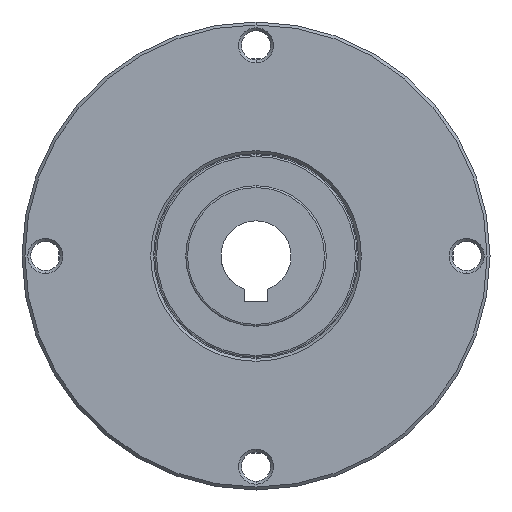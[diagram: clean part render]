
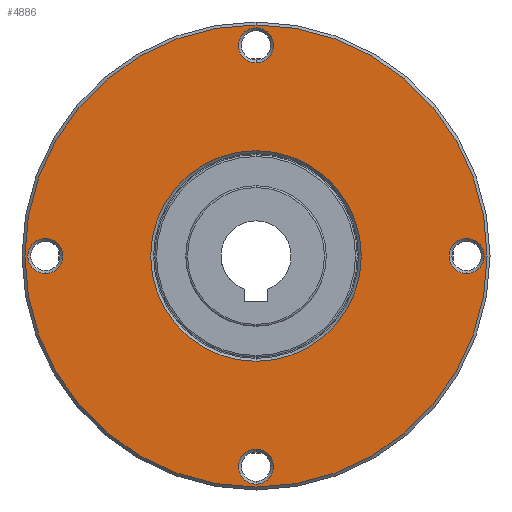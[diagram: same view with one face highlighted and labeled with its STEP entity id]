
A CAD part, front view. The second image highlights one B-rep face of the part: STEP entity #4886.
In plain terms, the highlighted planar face has unit normal (0, -1, 0).
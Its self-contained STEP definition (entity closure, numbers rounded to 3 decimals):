
#45 = EDGE_CURVE ( 'NONE', #6743, #6055, #467, .T. ) ;
#61 = ORIENTED_EDGE ( 'NONE', *, *, #7076, .T. ) ;
#65 = ORIENTED_EDGE ( 'NONE', *, *, #6584, .T. ) ;
#88 = DIRECTION ( 'NONE',  ( 0., 0., -1. ) ) ;
#127 = CIRCLE ( 'NONE', #7108, 39.5 ) ;
#183 = CARTESIAN_POINT ( 'NONE',  ( 36., -29.133, 3. ) ) ;
#240 = DIRECTION ( 'NONE',  ( 0., 0., -1. ) ) ;
#252 = EDGE_LOOP ( 'NONE', ( #5687, #6183 ) ) ;
#422 = CARTESIAN_POINT ( 'NONE',  ( 0., -29.133, 39.5 ) ) ;
#467 = CIRCLE ( 'NONE', #6837, 3. ) ;
#716 = EDGE_CURVE ( 'NONE', #6162, #2233, #7399, .T. ) ;
#736 = FACE_BOUND ( 'NONE', #969, .T. ) ;
#809 = CIRCLE ( 'NONE', #5395, 3. ) ;
#872 = DIRECTION ( 'NONE',  ( 0., 1., 0. ) ) ;
#905 = EDGE_CURVE ( 'NONE', #3075, #4284, #809, .T. ) ;
#969 = EDGE_LOOP ( 'NONE', ( #2950, #1299 ) ) ;
#994 = CARTESIAN_POINT ( 'NONE',  ( 36., -29.133, -3. ) ) ;
#1190 = EDGE_LOOP ( 'NONE', ( #65, #5935 ) ) ;
#1223 = VERTEX_POINT ( 'NONE', #6245 ) ;
#1227 = AXIS2_PLACEMENT_3D ( 'NONE', #7212, #3736, #240 ) ;
#1299 = ORIENTED_EDGE ( 'NONE', *, *, #4125, .T. ) ;
#1403 = CARTESIAN_POINT ( 'NONE',  ( -36., -29.133, 0. ) ) ;
#1701 = CIRCLE ( 'NONE', #2574, 18. ) ;
#1723 = CIRCLE ( 'NONE', #5739, 3. ) ;
#1955 = DIRECTION ( 'NONE',  ( 0., -1., 0. ) ) ;
#1997 = DIRECTION ( 'NONE',  ( 0., 0., -1. ) ) ;
#2054 = CARTESIAN_POINT ( 'NONE',  ( 0., -29.133, 0. ) ) ;
#2091 = AXIS2_PLACEMENT_3D ( 'NONE', #7053, #3590, #88 ) ;
#2098 = CARTESIAN_POINT ( 'NONE',  ( -36., -29.133, 0. ) ) ;
#2173 = AXIS2_PLACEMENT_3D ( 'NONE', #4405, #872, #4978 ) ;
#2233 = VERTEX_POINT ( 'NONE', #4378 ) ;
#2280 = FACE_BOUND ( 'NONE', #252, .T. ) ;
#2342 = CARTESIAN_POINT ( 'NONE',  ( 0., -29.133, 36. ) ) ;
#2346 = AXIS2_PLACEMENT_3D ( 'NONE', #6426, #2929, #6996 ) ;
#2433 = EDGE_CURVE ( 'NONE', #6055, #6743, #6248, .T. ) ;
#2445 = CIRCLE ( 'NONE', #4249, 3. ) ;
#2574 = AXIS2_PLACEMENT_3D ( 'NONE', #2054, #6141, #2639 ) ;
#2639 = DIRECTION ( 'NONE',  ( 0., 0., -1. ) ) ;
#2757 = CARTESIAN_POINT ( 'NONE',  ( 0., -29.133, 39. ) ) ;
#2852 = DIRECTION ( 'NONE',  ( 0., -1., 0. ) ) ;
#2929 = DIRECTION ( 'NONE',  ( 0., 1., 0. ) ) ;
#2941 = DIRECTION ( 'NONE',  ( 0., 0., -1. ) ) ;
#2950 = ORIENTED_EDGE ( 'NONE', *, *, #4132, .T. ) ;
#3049 = EDGE_LOOP ( 'NONE', ( #7095, #3548 ) ) ;
#3052 = CARTESIAN_POINT ( 'NONE',  ( 0., -29.133, -39. ) ) ;
#3075 = VERTEX_POINT ( 'NONE', #2757 ) ;
#3243 = EDGE_CURVE ( 'NONE', #5628, #5269, #6389, .T. ) ;
#3286 = CIRCLE ( 'NONE', #3915, 39.5 ) ;
#3292 = CIRCLE ( 'NONE', #2173, 18. ) ;
#3353 = CARTESIAN_POINT ( 'NONE',  ( 36., -29.133, 0. ) ) ;
#3425 = CARTESIAN_POINT ( 'NONE',  ( -40., -29.133, 0. ) ) ;
#3437 = AXIS2_PLACEMENT_3D ( 'NONE', #3425, #7484, #4016 ) ;
#3476 = CARTESIAN_POINT ( 'NONE',  ( 0., -29.133, 36. ) ) ;
#3548 = ORIENTED_EDGE ( 'NONE', *, *, #2433, .T. ) ;
#3590 = DIRECTION ( 'NONE',  ( 0., 1., 0. ) ) ;
#3681 = FACE_BOUND ( 'NONE', #3049, .T. ) ;
#3736 = DIRECTION ( 'NONE',  ( 0., 1., 0. ) ) ;
#3809 = FACE_BOUND ( 'NONE', #1190, .T. ) ;
#3836 = CARTESIAN_POINT ( 'NONE',  ( 0., -29.133, -18. ) ) ;
#3873 = FACE_BOUND ( 'NONE', #5931, .T. ) ;
#3915 = AXIS2_PLACEMENT_3D ( 'NONE', #6349, #2852, #6911 ) ;
#3940 = DIRECTION ( 'NONE',  ( 0., 0., -1. ) ) ;
#3996 = PLANE ( 'NONE',  #3437 ) ;
#4016 = DIRECTION ( 'NONE',  ( 0., 0., -1. ) ) ;
#4075 = DIRECTION ( 'NONE',  ( 0., 0., -1. ) ) ;
#4125 = EDGE_CURVE ( 'NONE', #4283, #6350, #3292, .T. ) ;
#4132 = EDGE_CURVE ( 'NONE', #6350, #4283, #1701, .T. ) ;
#4192 = ORIENTED_EDGE ( 'NONE', *, *, #5608, .T. ) ;
#4249 = AXIS2_PLACEMENT_3D ( 'NONE', #2342, #6434, #2941 ) ;
#4283 = VERTEX_POINT ( 'NONE', #5187 ) ;
#4284 = VERTEX_POINT ( 'NONE', #5768 ) ;
#4367 = CARTESIAN_POINT ( 'NONE',  ( -36., -29.133, -3. ) ) ;
#4378 = CARTESIAN_POINT ( 'NONE',  ( 0., -29.133, -33. ) ) ;
#4405 = CARTESIAN_POINT ( 'NONE',  ( 0., -29.133, 0. ) ) ;
#4545 = AXIS2_PLACEMENT_3D ( 'NONE', #1403, #5490, #1997 ) ;
#4559 = ORIENTED_EDGE ( 'NONE', *, *, #3243, .T. ) ;
#4886 = ADVANCED_FACE ( 'NONE', ( #6763, #736, #2280, #3681, #3809, #3873 ), #3996, .T. ) ;
#4978 = DIRECTION ( 'NONE',  ( 0., 0., -1. ) ) ;
#5187 = CARTESIAN_POINT ( 'NONE',  ( 0., -29.133, 18. ) ) ;
#5231 = CIRCLE ( 'NONE', #2346, 3. ) ;
#5240 = CARTESIAN_POINT ( 'NONE',  ( -36., -29.133, 3. ) ) ;
#5268 = EDGE_CURVE ( 'NONE', #2233, #6162, #5231, .T. ) ;
#5269 = VERTEX_POINT ( 'NONE', #183 ) ;
#5395 = AXIS2_PLACEMENT_3D ( 'NONE', #3476, #7536, #4075 ) ;
#5429 = EDGE_CURVE ( 'NONE', #5625, #1223, #127, .T. ) ;
#5447 = CARTESIAN_POINT ( 'NONE',  ( 0., -29.133, 0. ) ) ;
#5490 = DIRECTION ( 'NONE',  ( 0., 1., 0. ) ) ;
#5608 = EDGE_CURVE ( 'NONE', #5269, #5628, #1723, .T. ) ;
#5625 = VERTEX_POINT ( 'NONE', #422 ) ;
#5628 = VERTEX_POINT ( 'NONE', #994 ) ;
#5687 = ORIENTED_EDGE ( 'NONE', *, *, #716, .T. ) ;
#5739 = AXIS2_PLACEMENT_3D ( 'NONE', #3353, #7411, #3940 ) ;
#5768 = CARTESIAN_POINT ( 'NONE',  ( 0., -29.133, 33. ) ) ;
#5931 = EDGE_LOOP ( 'NONE', ( #4559, #4192 ) ) ;
#5935 = ORIENTED_EDGE ( 'NONE', *, *, #905, .T. ) ;
#6035 = DIRECTION ( 'NONE',  ( 0., 0., -1. ) ) ;
#6055 = VERTEX_POINT ( 'NONE', #5240 ) ;
#6141 = DIRECTION ( 'NONE',  ( 0., 1., 0. ) ) ;
#6162 = VERTEX_POINT ( 'NONE', #3052 ) ;
#6170 = DIRECTION ( 'NONE',  ( 0., 0., -1. ) ) ;
#6183 = ORIENTED_EDGE ( 'NONE', *, *, #5268, .T. ) ;
#6245 = CARTESIAN_POINT ( 'NONE',  ( 0., -29.133, -39.5 ) ) ;
#6248 = CIRCLE ( 'NONE', #4545, 3. ) ;
#6349 = CARTESIAN_POINT ( 'NONE',  ( 0., -29.133, 0. ) ) ;
#6350 = VERTEX_POINT ( 'NONE', #3836 ) ;
#6389 = CIRCLE ( 'NONE', #2091, 3. ) ;
#6426 = CARTESIAN_POINT ( 'NONE',  ( 0., -29.133, -36. ) ) ;
#6434 = DIRECTION ( 'NONE',  ( 0., 1., 0. ) ) ;
#6584 = EDGE_CURVE ( 'NONE', #4284, #3075, #2445, .T. ) ;
#6743 = VERTEX_POINT ( 'NONE', #4367 ) ;
#6763 = FACE_OUTER_BOUND ( 'NONE', #7409, .T. ) ;
#6837 = AXIS2_PLACEMENT_3D ( 'NONE', #2098, #7117, #6170 ) ;
#6911 = DIRECTION ( 'NONE',  ( 0., 0., -1. ) ) ;
#6996 = DIRECTION ( 'NONE',  ( 0., 0., -1. ) ) ;
#7053 = CARTESIAN_POINT ( 'NONE',  ( 36., -29.133, 0. ) ) ;
#7076 = EDGE_CURVE ( 'NONE', #1223, #5625, #3286, .T. ) ;
#7095 = ORIENTED_EDGE ( 'NONE', *, *, #45, .T. ) ;
#7108 = AXIS2_PLACEMENT_3D ( 'NONE', #5447, #1955, #6035 ) ;
#7117 = DIRECTION ( 'NONE',  ( 0., 1., 0. ) ) ;
#7148 = ORIENTED_EDGE ( 'NONE', *, *, #5429, .T. ) ;
#7212 = CARTESIAN_POINT ( 'NONE',  ( 0., -29.133, -36. ) ) ;
#7399 = CIRCLE ( 'NONE', #1227, 3. ) ;
#7409 = EDGE_LOOP ( 'NONE', ( #7148, #61 ) ) ;
#7411 = DIRECTION ( 'NONE',  ( 0., 1., 0. ) ) ;
#7484 = DIRECTION ( 'NONE',  ( 0., -1., 0. ) ) ;
#7536 = DIRECTION ( 'NONE',  ( 0., 1., 0. ) ) ;
